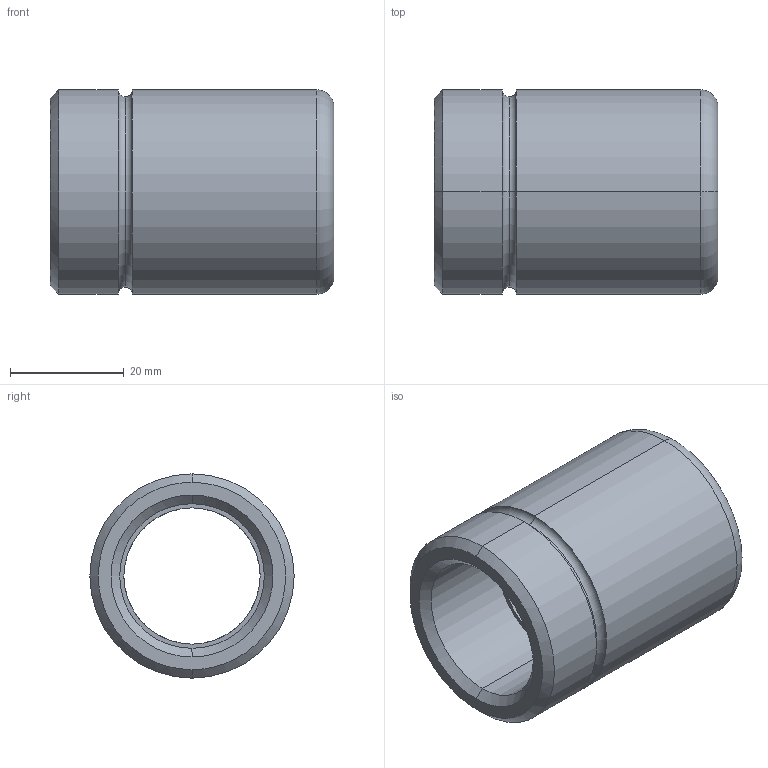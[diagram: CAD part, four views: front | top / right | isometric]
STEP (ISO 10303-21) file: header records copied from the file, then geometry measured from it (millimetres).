
FILE_DESCRIPTION(('CATIA V5 STEP Exchange'),'2;1');
FILE_NAME('C:\Users\Utente\Desktop\IO LAVORO\3D X SITO CF\X SITO\3D files 347\347-24 x 50.stp','2021-01-01T10:02:05+00:00',('none'),('none'),'CATIA Version 5 Release 20 GA (IN-10)','CATIA V5 STEP AP203','none');
FILE_SCHEMA(('CONFIG_CONTROL_DESIGN'));
Length unit declared in the file: millimetre
Products named in the file (1): 347-24 x 50
Bounding box: 50 x 36 x 36 mm (x, y, z)
Volume: 26230.5 mm3; surface area: 10588.4 mm2
Topology: 1 solids, 1 shells, 29 faces, 86 edges, 60 vertices
Faces by surface type: torus 12, cylinder 10, cone 4, plane 3
Entity records: 1160 total; most frequent: CARTESIAN_POINT 350, ORIENTED_EDGE 172, DIRECTION 132, AXIS2_PLACEMENT_3D 90, EDGE_CURVE 86, CIRCLE 60, VERTEX_POINT 60, EDGE_LOOP 32
